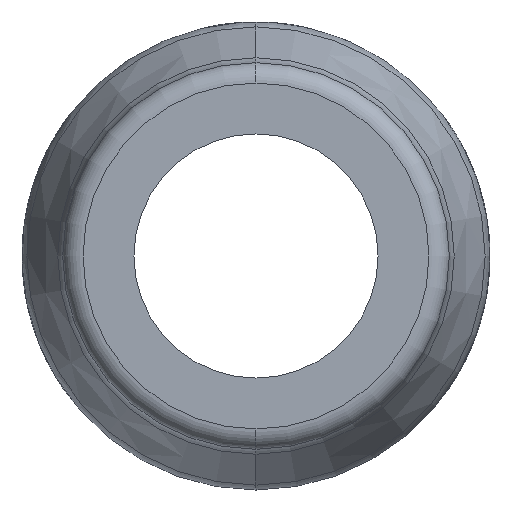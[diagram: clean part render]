
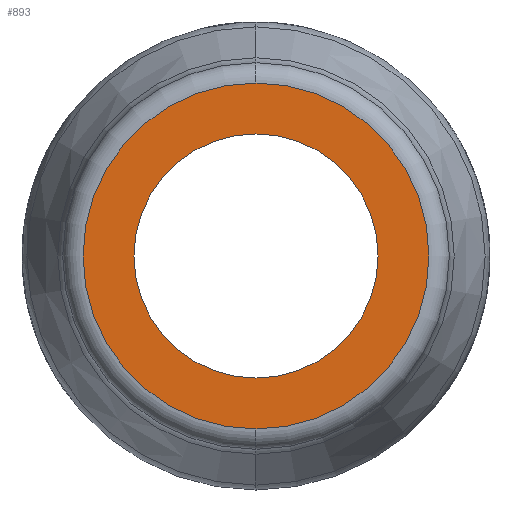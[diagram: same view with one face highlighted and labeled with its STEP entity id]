
A CAD part, left-side view. The second image highlights one B-rep face of the part: STEP entity #893.
In plain terms, the highlighted planar face has unit normal (-1, 0, 0).
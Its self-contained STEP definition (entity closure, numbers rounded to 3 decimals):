
#14 = CARTESIAN_POINT ( 'NONE',  ( 0., 0., -12. ) ) ;
#27 = CARTESIAN_POINT ( 'NONE',  ( 0., 0., -17. ) ) ;
#46 = CARTESIAN_POINT ( 'NONE',  ( 0., 0., 0. ) ) ;
#58 = FACE_BOUND ( 'NONE', #661, .T. ) ;
#74 = CARTESIAN_POINT ( 'NONE',  ( 0., 0., 0. ) ) ;
#81 = DIRECTION ( 'NONE',  ( -1., 0., 0. ) ) ;
#93 = DIRECTION ( 'NONE',  ( 0., 0., -1. ) ) ;
#109 = FACE_OUTER_BOUND ( 'NONE', #1319, .T. ) ;
#153 = ORIENTED_EDGE ( 'NONE', *, *, #960, .T. ) ;
#170 = AXIS2_PLACEMENT_3D ( 'NONE', #362, #376, #381 ) ;
#362 = CARTESIAN_POINT ( 'NONE',  ( 0., 0., 0. ) ) ;
#376 = DIRECTION ( 'NONE',  ( -1., 0., 0. ) ) ;
#381 = DIRECTION ( 'NONE',  ( 0., 0., 1. ) ) ;
#398 = ORIENTED_EDGE ( 'NONE', *, *, #1206, .F. ) ;
#443 = CIRCLE ( 'NONE', #1324, 17. ) ;
#475 = DIRECTION ( 'NONE',  ( 0., 0., 1. ) ) ;
#502 = VERTEX_POINT ( 'NONE', #14 ) ;
#593 = CARTESIAN_POINT ( 'NONE',  ( 0., 0., 0. ) ) ;
#625 = DIRECTION ( 'NONE',  ( -1., 0., 0. ) ) ;
#636 = DIRECTION ( 'NONE',  ( -1., 0., 0. ) ) ;
#661 = EDGE_LOOP ( 'NONE', ( #717, #398 ) ) ;
#681 = EDGE_CURVE ( 'NONE', #1048, #502, #1026, .T. ) ;
#717 = ORIENTED_EDGE ( 'NONE', *, *, #681, .F. ) ;
#765 = ORIENTED_EDGE ( 'NONE', *, *, #1516, .T. ) ;
#893 = ADVANCED_FACE ( 'NONE', ( #109, #58 ), #1228, .F. ) ;
#960 = EDGE_CURVE ( 'NONE', #1696, #1031, #1429, .T. ) ;
#1026 = CIRCLE ( 'NONE', #170, 12. ) ;
#1031 = VERTEX_POINT ( 'NONE', #27 ) ;
#1048 = VERTEX_POINT ( 'NONE', #1718 ) ;
#1072 = CARTESIAN_POINT ( 'NONE',  ( 0., 0., 17. ) ) ;
#1206 = EDGE_CURVE ( 'NONE', #502, #1048, #1801, .T. ) ;
#1228 = PLANE ( 'NONE',  #1394 ) ;
#1319 = EDGE_LOOP ( 'NONE', ( #765, #153 ) ) ;
#1324 = AXIS2_PLACEMENT_3D ( 'NONE', #74, #81, #93 ) ;
#1338 = DIRECTION ( 'NONE',  ( 0., 0., -1. ) ) ;
#1354 = DIRECTION ( 'NONE',  ( 1., 0., 0. ) ) ;
#1394 = AXIS2_PLACEMENT_3D ( 'NONE', #1629, #1354, #1338 ) ;
#1429 = CIRCLE ( 'NONE', #1673, 17. ) ;
#1450 = AXIS2_PLACEMENT_3D ( 'NONE', #593, #625, #475 ) ;
#1516 = EDGE_CURVE ( 'NONE', #1031, #1696, #443, .T. ) ;
#1629 = CARTESIAN_POINT ( 'NONE',  ( 0., 12., 0. ) ) ;
#1673 = AXIS2_PLACEMENT_3D ( 'NONE', #46, #636, #1730 ) ;
#1696 = VERTEX_POINT ( 'NONE', #1072 ) ;
#1718 = CARTESIAN_POINT ( 'NONE',  ( 0., 0., 12. ) ) ;
#1730 = DIRECTION ( 'NONE',  ( 0., 0., -1. ) ) ;
#1801 = CIRCLE ( 'NONE', #1450, 12. ) ;
